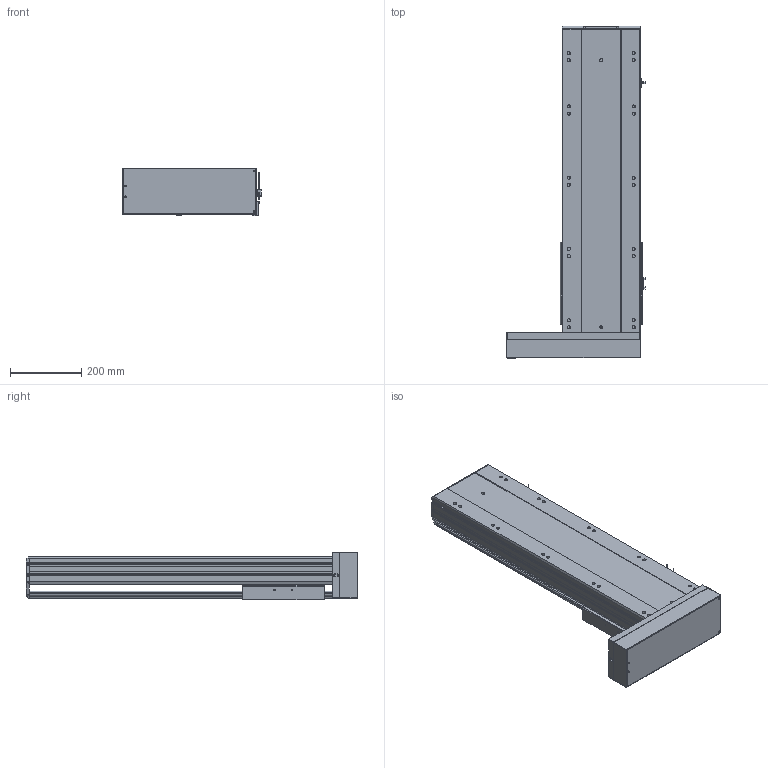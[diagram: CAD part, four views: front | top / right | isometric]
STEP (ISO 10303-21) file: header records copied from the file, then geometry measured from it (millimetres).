
FILE_DESCRIPTION (( 'STEP AP203' ), '1' );
FILE_NAME ('55.STEP', '2022-07-01T12:43:06', ( '' ), ( '' ), 'SwSTEP 2.0', 'SolidWorks 2016', '' );
FILE_SCHEMA (( 'CONFIG_CONTROL_DESIGN' ));
Length unit declared in the file: millimetre
Products named in the file (7): BTH22-BL-01; BTH22-BL-06-PCD145; BTH22-BL-04; BTH22-BL-HZ; 55; H130-PCD145; BTH22-BL-菁釱
Assembly tree (8 placements, depth 2):
  55
    BTH22-BL-菁釱
    BTH22-BL-01
    BTH22-BL-04  x3
    BTH22-BL-HZ
    BTH22-BL-06-PCD145
    H130-PCD145
Bounding box: 389.2 x 932 x 134 mm (x, y, z)
Volume: 11811453.3 mm3; surface area: 1708677.3 mm2
Topology: 10 solids, 10 shells, 1153 faces, 3177 edges, 2067 vertices
Faces by surface type: plane 630, cylinder 395, bspline 86, cone 42
Entity records: 121502 total; most frequent: CARTESIAN_POINT 55975, ORIENTED_EDGE 13973, DIRECTION 12306, EDGE_CURVE 7492, VERTEX_POINT 4880, AXIS2_PLACEMENT_3D 4516, VECTOR 3274, LINE 3274
